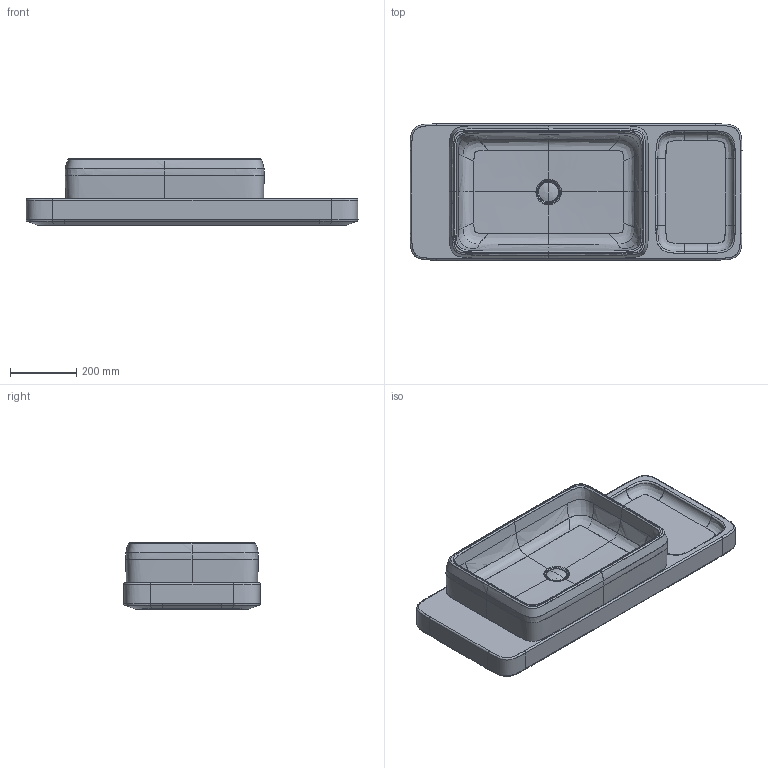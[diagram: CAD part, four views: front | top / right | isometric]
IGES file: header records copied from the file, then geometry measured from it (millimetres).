
Global section: file name: d:\users\matthias.isele\Desktop\Keramik\Qatego\D4800100_D4800200_D4800300\3D\D4800100_D4800200_D4800300.igs; native system: Rhinoceros ( Sep 13 2016 ); preprocessor: Trout Lake IGES 012 Sep 13 2016; date: 230314.083537; units: millimetre
Bounding box: 1000 x 410 x 199.7 mm (x, y, z)
Surface area: 1848241 mm2 (no closed solid volume)
Topology: 0 solids, 0 shells, 323 faces, 3565 edges, 3555 vertices
Faces by surface type: bspline 323
